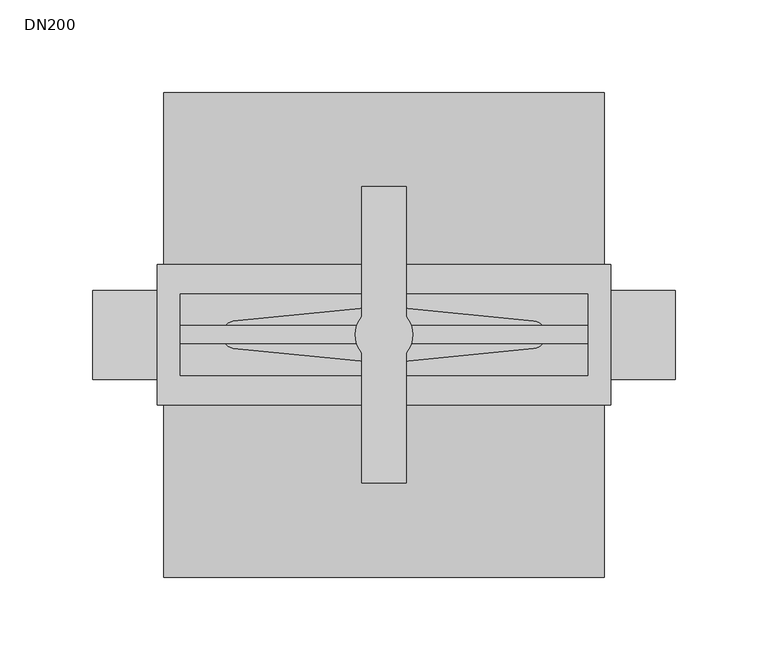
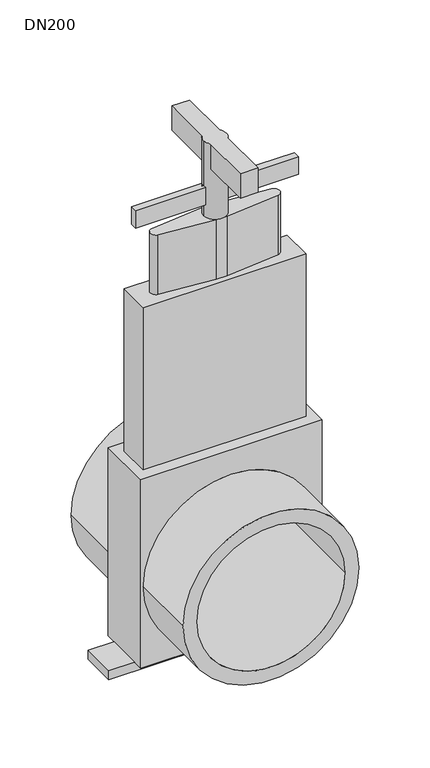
"""IFC4 building model written with IfcOpenShell, lengths in millimetres: valve geometry, PIA_PE_UN_valve gate_ACO : DN200."""

from ifc_helpers import new_model, si_unit, frame, origin, place, context, project, spatial, polyline, circle_curve, source, transform, mapped, element, save
from ifc_brep_helpers import plane_surface, cylinder_surface, revolved_surface, advanced_brep


def dn200_f11250b8(model_context):
    return source(origin(), model_context, "Body", "AdvancedBrep", [
        advanced_brep(
        [(12.0, 80.0, 706.0), (-12.0, 80.0, 706.0), (-12.0, 9.8389983, 706.0), (-15.5179215, 0.0, 706.0), (-12.0, -9.8389983, 706.0), (-12.0, -80.0, 706.0), (12.0, -80.0, 706.0), (12.0, -9.8389983, 706.0), (15.5179215, 0.0, 706.0), (12.0, 9.8389983, 706.0), (15.5179215, 0.0, 599.0), (-15.5179215, 0.0, 599.0), (-15.5179215, 0.0, 617.0), (-14.6903331, 5.0, 617.0), (-14.6903331, 5.0, 642.0), (-15.5179215, 0.0, 642.0), (-12.0, 9.8389983, 671.0), (12.0, 9.8389983, 671.0), (15.5179215, 0.0, 642.0), (14.6903331, 5.0, 642.0), (14.6903331, 5.0, 617.0), (15.5179215, 0.0, 617.0), (14.7547558, -4.8065653, 617.0), (14.7547558, -4.8065653, 642.0), (12.0, -9.8389983, 671.0), (-12.0, -9.8389983, 671.0), (-14.7547558, -4.8065653, 642.0), (-14.7547558, -4.8065653, 617.0), (12.0, -80.0, 671.0), (-12.0, -80.0, 671.0), (-12.0, 80.0, 671.0), (12.0, 80.0, 671.0), (110.0, 5.0, 617.0), (110.0, -4.8065653, 617.0), (-110.0, -4.8065653, 617.0), (-110.0, 5.0, 617.0), (-110.0, 5.0, 642.0), (-110.0, -4.8065653, 642.0), (110.0, -4.8065653, 642.0), (110.0, 5.0, 642.0)],
        [
            (0, 1),
            (1, 2),
            (2, 3, circle_curve(frame((0.0, 0.0, 706.0), z_axis=(0.0, 0.0, 1.0), x_axis=(-1.0, 0.0, 0.0)), 15.5179215)),
            (3, 4, circle_curve(frame((0.0, 0.0, 706.0), z_axis=(0.0, 0.0, 1.0), x_axis=(-1.0, 0.0, 0.0)), 15.5179215)),
            (4, 5),
            (5, 6),
            (6, 7),
            (7, 8, circle_curve(frame((0.0, 0.0, 706.0), z_axis=(0.0, 0.0, 1.0), x_axis=(-1.0, 0.0, 0.0)), 15.5179215)),
            (8, 9, circle_curve(frame((0.0, 0.0, 706.0), z_axis=(0.0, 0.0, 1.0), x_axis=(-1.0, 0.0, 0.0)), 15.5179215)),
            (9, 0),
            (10, 11, circle_curve(frame((0.0, 0.0, 599.0), z_axis=(0.0, 0.0, -1.0), x_axis=(-1.0, 0.0, 0.0)), 15.5179215)),
            (11, 10, circle_curve(frame((0.0, 0.0, 599.0), z_axis=(0.0, 0.0, -1.0), x_axis=(-1.0, 0.0, 0.0)), 15.5179215)),
            (11, 12),
            (12, 13, circle_curve(frame((0.0, 0.0, 617.0), z_axis=(0.0, 0.0, -1.0), x_axis=(-1.0, 0.0, 0.0)), 15.5179215)),
            (13, 14),
            (14, 15, circle_curve(frame((0.0, 0.0, 642.0), z_axis=(0.0, 0.0, 1.0), x_axis=(-1.0, 0.0, 0.0)), 15.5179215)),
            (15, 3),
            (2, 16),
            (16, 17, circle_curve(frame((0.0, 0.0, 671.0), z_axis=(0.0, 0.0, -1.0), x_axis=(-1.0, 0.0, 0.0)), 15.5179215)),
            (17, 9),
            (8, 18),
            (18, 19, circle_curve(frame((0.0, 0.0, 642.0), z_axis=(0.0, 0.0, 1.0), x_axis=(-1.0, 0.0, 0.0)), 15.5179215)),
            (19, 20),
            (20, 21, circle_curve(frame((0.0, 0.0, 617.0), z_axis=(0.0, 0.0, -1.0), x_axis=(-1.0, 0.0, 0.0)), 15.5179215)),
            (21, 10),
            (21, 22, circle_curve(frame((0.0, 0.0, 617.0), z_axis=(0.0, 0.0, -1.0), x_axis=(-1.0, 0.0, 0.0)), 15.5179215)),
            (22, 23),
            (23, 18, circle_curve(frame((0.0, 0.0, 642.0), z_axis=(0.0, 0.0, 1.0), x_axis=(-1.0, 0.0, 0.0)), 15.5179215)),
            (7, 24),
            (24, 25, circle_curve(frame((0.0, 0.0, 671.0), z_axis=(0.0, 0.0, -1.0), x_axis=(-1.0, 0.0, 0.0)), 15.5179215)),
            (25, 4),
            (15, 26, circle_curve(frame((0.0, 0.0, 642.0), z_axis=(0.0, 0.0, 1.0), x_axis=(-1.0, 0.0, 0.0)), 15.5179215)),
            (26, 27),
            (27, 12, circle_curve(frame((0.0, 0.0, 617.0), z_axis=(0.0, 0.0, -1.0), x_axis=(-1.0, 0.0, 0.0)), 15.5179215)),
            (28, 29),
            (29, 25),
            (24, 28),
            (30, 31),
            (31, 17),
            (16, 30),
            (0, 31),
            (30, 1),
            (29, 5),
            (28, 6),
            (32, 33),
            (33, 22),
            (20, 32),
            (34, 35),
            (35, 13),
            (27, 34),
            (36, 37),
            (37, 26),
            (14, 36),
            (38, 39),
            (39, 19),
            (23, 38),
            (39, 32),
            (35, 36),
            (34, 37),
            (33, 38),
        ],
        [
            plane_surface(frame((-15.5179215, 0.0, 706.0), z_axis=(0.0, 0.0, 1.0), x_axis=(0.0, -1.0, 0.0))),
            plane_surface(frame((-15.5179215, 0.0, 599.0), z_axis=(0.0, 0.0, -1.0), x_axis=(0.0, 1.0, 0.0))),
            cylinder_surface(frame((0.0, 0.0, 599.0), z_axis=(0.0, 0.0, 1.0), x_axis=(-1.0, 0.0, 0.0)), 15.5179215),
            plane_surface(frame((-16.1456927, 80.0, 671.0), z_axis=(0.0, 0.0, -1.0), x_axis=(1.0, 0.0, 0.0))),
            plane_surface(frame((12.0, 80.0, 706.0), z_axis=(0.0, 1.0, 0.0), x_axis=(0.0, 0.0, -1.0))),
            plane_surface(frame((-12.0, 80.0, 706.0), z_axis=(-1.0, 0.0, 0.0), x_axis=(0.0, 0.0, -1.0))),
            plane_surface(frame((-12.0, -80.0, 706.0), z_axis=(0.0, -1.0, 0.0), x_axis=(0.0, 0.0, -1.0))),
            plane_surface(frame((12.0, -80.0, 706.0), z_axis=(1.0, 0.0, 0.0), x_axis=(0.0, 0.0, -1.0))),
            plane_surface(frame((-110.0, 5.0, 617.0), z_axis=(0.0, 0.0, -1.0), x_axis=(1.0, 0.0, 0.0))),
            plane_surface(frame((-110.0, 5.0, 642.0), z_axis=(0.0, 0.0, 1.0), x_axis=(-1.0, 0.0, 0.0))),
            plane_surface(frame((110.0, 5.0, 642.0), z_axis=(0.0, 1.0, 0.0), x_axis=(0.0, 0.0, -1.0))),
            plane_surface(frame((-110.0, 5.0, 642.0), z_axis=(-1.0, 0.0, 0.0), x_axis=(0.0, 0.0, -1.0))),
            plane_surface(frame((-110.0, -4.8065653, 642.0), z_axis=(0.0, -1.0, 0.0), x_axis=(0.0, 0.0, -1.0))),
            plane_surface(frame((110.0, -4.8065653, 642.0), z_axis=(1.0, 0.0, 0.0), x_axis=(0.0, 0.0, -1.0))),
        ],
        [
            (0, [[1, 2, 3, 4, 5, 6, 7, 8, 9, 10]]),
            (1, [[11, 12]]),
            (2, [[-12, 13, 14, 15, 16, 17, -3, 18, 19, 20, -9, 21, 22, 23, 24, 25]]),
            (2, [[-11, -25, 26, 27, 28, -21, -8, 29, 30, 31, -4, -17, 32, 33, 34, -13]]),
            (3, [[35, 36, -30, 37]]),
            (3, [[38, 39, -19, 40]]),
            (4, [[-1, 41, -38, 42]]),
            (5, [[-42, -40, -18, -2]]),
            (5, [[43, -5, -31, -36]]),
            (6, [[-6, -43, -35, 44]]),
            (7, [[-41, -10, -20, -39]]),
            (7, [[-44, -37, -29, -7]]),
            (8, [[45, 46, -26, -24, 47]]),
            (8, [[48, 49, -14, -34, 50]]),
            (9, [[51, 52, -32, -16, 53]]),
            (9, [[54, 55, -22, -28, 56]]),
            (10, [[57, -47, -23, -55]]),
            (10, [[58, -53, -15, -49]]),
            (11, [[-48, 59, -51, -58]]),
            (12, [[-59, -50, -33, -52]]),
            (12, [[60, -56, -27, -46]]),
            (13, [[-45, -57, -54, -60]]),
        ],
    ),
        advanced_brep(
        [(-119.0, -131.0, 128.0), (119.0, -131.0, 128.0), (100.0, -131.0, 128.0), (-100.0, -131.0, 128.0), (-119.0, 131.0, 128.0), (119.0, 131.0, 128.0), (-100.0, 131.0, 128.0), (100.0, 131.0, 128.0), (-119.0, -38.0, 128.0), (-30.5941171, -38.0, 13.0), (-30.5941171, -24.0, 13.0), (30.5941171, -24.0, 13.0), (30.5941171, -38.0, 13.0), (119.0, -38.0, 128.0), (119.0, 38.0, 128.0), (30.5941171, 38.0, 13.0), (30.5941171, 24.0, 13.0), (-30.5941171, 24.0, 13.0), (-30.5941171, 38.0, 13.0), (-119.0, 38.0, 128.0), (-157.5, -24.0, 13.0), (-157.5, -24.0, 0.0), (157.5, -24.0, 0.0), (157.5, -24.0, 13.0), (122.5, -24.0, 13.0), (-122.5, -24.0, 13.0), (157.5, 24.0, 13.0), (157.5, 24.0, 0.0), (-157.5, 24.0, 0.0), (-157.5, 24.0, 13.0), (-122.5, 24.0, 13.0), (122.5, 24.0, 13.0), (122.5, -38.0, 282.0), (-122.5, -38.0, 282.0), (-122.5, -38.0, 13.0), (122.5, -38.0, 13.0), (122.5, 38.0, 282.0), (122.5, 38.0, 13.0), (-122.5, 38.0, 13.0), (-122.5, 38.0, 282.0), (-110.0, 22.0, 282.0), (110.0, 22.0, 282.0), (110.0, -22.0, 282.0), (-110.0, -22.0, 282.0), (110.0, 22.0, 514.0), (-110.0, 22.0, 514.0), (-110.0, -22.0, 514.0), (110.0, -22.0, 514.0), (-7.0266213, -14.7148027, 514.0), (-81.4686781, -7.3547933, 514.0), (-81.4753357, 7.3534607, 514.0), (-7.3959199, 14.7114773, 514.0), (7.3962517, 14.7148251, 514.0), (80.7379194, 7.46361, 514.0), (80.7412761, -7.4632774, 514.0), (7.7653336, -14.7114764, 514.0), (-81.4686781, -7.3547933, 599.0), (-7.0266213, -14.7148027, 599.0), (7.7653336, -14.7114764, 599.0), (80.7412761, -7.4632774, 599.0), (80.7379194, 7.46361, 599.0), (7.3962517, 14.7148251, 599.0), (-7.3959199, 14.7114773, 599.0), (-81.4753357, 7.3534607, 599.0)],
        [
            (0, 1, circle_curve(frame((0.0, -131.0, 128.0), z_axis=(0.0, -1.0, 0.0), x_axis=(1.0, 0.0, 0.0)), 119.0)),
            (1, 0, circle_curve(frame((0.0, -131.0, 128.0), z_axis=(0.0, -1.0, 0.0), x_axis=(1.0, 0.0, 0.0)), 119.0)),
            (2, 3, circle_curve(frame((0.0, -131.0, 128.0), z_axis=(0.0, 1.0, 0.0), x_axis=(1.0, 0.0, 0.0)), 100.0)),
            (3, 2, circle_curve(frame((0.0, -131.0, 128.0), z_axis=(0.0, 1.0, 0.0), x_axis=(1.0, 0.0, 0.0)), 100.0)),
            (4, 5, circle_curve(frame((0.0, 131.0, 128.0), z_axis=(0.0, 1.0, 0.0), x_axis=(1.0, 0.0, 0.0)), 119.0)),
            (5, 4, circle_curve(frame((0.0, 131.0, 128.0), z_axis=(0.0, 1.0, 0.0), x_axis=(1.0, 0.0, 0.0)), 119.0)),
            (6, 7, circle_curve(frame((0.0, 131.0, 128.0), z_axis=(0.0, -1.0, 0.0), x_axis=(1.0, 0.0, 0.0)), 100.0)),
            (7, 6, circle_curve(frame((0.0, 131.0, 128.0), z_axis=(0.0, -1.0, 0.0), x_axis=(1.0, 0.0, 0.0)), 100.0)),
            (0, 8),
            (8, 9, circle_curve(frame((0.0, -38.0, 128.0), z_axis=(0.0, -1.0, 0.0), x_axis=(1.0, 0.0, 0.0)), 119.0)),
            (9, 10),
            (10, 11, circle_curve(frame((0.0, -24.0, 128.0), z_axis=(0.0, -1.0, 0.0), x_axis=(1.0, 0.0, 0.0)), 119.0)),
            (11, 12),
            (12, 13, circle_curve(frame((0.0, -38.0, 128.0), z_axis=(0.0, -1.0, 0.0), x_axis=(1.0, 0.0, 0.0)), 119.0)),
            (13, 1),
            (5, 14),
            (14, 15, circle_curve(frame((0.0, 38.0, 128.0), z_axis=(0.0, 1.0, 0.0), x_axis=(1.0, 0.0, 0.0)), 119.0)),
            (15, 16),
            (16, 17, circle_curve(frame((0.0, 24.0, 128.0), z_axis=(0.0, 1.0, 0.0), x_axis=(1.0, 0.0, 0.0)), 119.0)),
            (17, 18),
            (18, 19, circle_curve(frame((0.0, 38.0, 128.0), z_axis=(0.0, 1.0, 0.0), x_axis=(1.0, 0.0, 0.0)), 119.0)),
            (19, 4),
            (13, 8, circle_curve(frame((0.0, -38.0, 128.0), z_axis=(0.0, -1.0, 0.0), x_axis=(1.0, 0.0, 0.0)), 119.0)),
            (19, 14, circle_curve(frame((0.0, 38.0, 128.0), z_axis=(0.0, 1.0, 0.0), x_axis=(1.0, 0.0, 0.0)), 119.0)),
            (6, 3),
            (2, 7),
            (20, 21),
            (21, 22),
            (22, 23),
            (23, 24),
            (24, 11),
            (10, 25),
            (25, 20),
            (26, 27),
            (27, 28),
            (28, 29),
            (29, 30),
            (30, 17),
            (16, 31),
            (31, 26),
            (23, 26),
            (31, 24),
            (29, 20),
            (25, 30),
            (28, 21),
            (27, 22),
            (32, 33),
            (33, 34),
            (34, 9),
            (12, 35),
            (35, 32),
            (36, 37),
            (37, 15),
            (18, 38),
            (38, 39),
            (39, 36),
            (32, 36),
            (39, 33),
            (40, 41),
            (41, 42),
            (42, 43),
            (43, 40),
            (38, 30),
            (25, 34),
            (24, 35),
            (37, 31),
            (44, 45),
            (45, 46),
            (46, 47),
            (47, 44),
            (48, 49),
            (49, 50, circle_curve(frame((-80.0, 0.0, 514.0), z_axis=(0.0, 0.0, -1.0), x_axis=(-1.0, 0.0, 0.0)), 7.5)),
            (50, 51),
            (51, 52, circle_curve(frame((0.0170574, -59.9212754, 514.0), z_axis=(0.0, 0.0, -1.0), x_axis=(-1.0, 0.0, 0.0)), 75.0)),
            (52, 53),
            (53, 54, circle_curve(frame((80.0, 0.0, 514.0), z_axis=(0.0, 0.0, -1.0), x_axis=(-1.0, 0.0, 0.0)), 7.5)),
            (54, 55),
            (55, 48, circle_curve(frame((0.3525729, 59.9212978, 514.0), z_axis=(0.0, 0.0, -1.0), x_axis=(-1.0, 0.0, 0.0)), 75.0)),
            (56, 57),
            (57, 58, circle_curve(frame((0.3525729, 59.9212978, 599.0), z_axis=(0.0, 0.0, 1.0), x_axis=(-1.0, 0.0, 0.0)), 75.0)),
            (58, 59),
            (59, 60, circle_curve(frame((80.0, 0.0, 599.0), z_axis=(0.0, 0.0, 1.0), x_axis=(-1.0, 0.0, 0.0)), 7.5)),
            (60, 61),
            (61, 62, circle_curve(frame((0.0170574, -59.9212754, 599.0), z_axis=(0.0, 0.0, 1.0), x_axis=(-1.0, 0.0, 0.0)), 75.0)),
            (62, 63),
            (63, 56, circle_curve(frame((-80.0, 0.0, 599.0), z_axis=(0.0, 0.0, 1.0), x_axis=(-1.0, 0.0, 0.0)), 7.5)),
            (56, 49),
            (48, 57),
            (55, 58),
            (54, 59),
            (53, 60),
            (52, 61),
            (51, 62),
            (50, 63),
            (44, 41),
            (40, 45),
            (43, 46),
            (42, 47),
        ],
        [
            plane_surface(frame((119.0, -131.0, 128.0), z_axis=(0.0, -1.0, 0.0), x_axis=(0.0, 0.0, 1.0))),
            plane_surface(frame((119.0, 131.0, 128.0), z_axis=(0.0, 1.0, 0.0), x_axis=(0.0, 0.0, -1.0))),
            cylinder_surface(frame((0.0, 131.0, 128.0), z_axis=(0.0, -1.0, 0.0), x_axis=(1.0, 0.0, 0.0)), 119.0),
            revolved_surface(polyline([(100.0, -131.0, 128.0), (100.0, 131.0, 128.0)]), (0.0, 318.1452223, 128.0), (0.0, -1.0, 0.0)),
            plane_surface(frame((-157.5, -24.0, 13.0), z_axis=(0.0, -1.0, 0.0), x_axis=(-1.0, 0.0, 0.0))),
            plane_surface(frame((-157.5, 24.0, 13.0), z_axis=(0.0, 1.0, 0.0), x_axis=(1.0, 0.0, 0.0))),
            plane_surface(frame((157.5, -24.0, 13.0), z_axis=(0.0, 0.0, 1.0), x_axis=(0.0, 1.0, 0.0))),
            plane_surface(frame((-157.5, -24.0, 13.0), z_axis=(-1.0, 0.0, 0.0), x_axis=(0.0, 1.0, 0.0))),
            plane_surface(frame((-157.5, -24.0, 0.0), z_axis=(0.0, 0.0, -1.0), x_axis=(0.0, 1.0, 0.0))),
            plane_surface(frame((157.5, -24.0, 0.0), z_axis=(1.0, 0.0, 0.0), x_axis=(0.0, 1.0, 0.0))),
            plane_surface(frame((-122.5, -38.0, 282.0), z_axis=(0.0, -1.0, 0.0), x_axis=(-1.0, 0.0, 0.0))),
            plane_surface(frame((-122.5, 38.0, 282.0), z_axis=(0.0, 1.0, 0.0), x_axis=(1.0, 0.0, 0.0))),
            plane_surface(frame((122.5, -38.0, 282.0), z_axis=(0.0, 0.0, 1.0), x_axis=(0.0, 1.0, 0.0))),
            plane_surface(frame((-122.5, -38.0, 282.0), z_axis=(-1.0, 0.0, 0.0), x_axis=(0.0, 1.0, 0.0))),
            plane_surface(frame((-122.5, -38.0, 13.0), z_axis=(0.0, 0.0, -1.0), x_axis=(0.0, 1.0, 0.0))),
            plane_surface(frame((122.5, -38.0, 13.0), z_axis=(1.0, 0.0, 0.0), x_axis=(0.0, 1.0, 0.0))),
            plane_surface(frame((-110.0, 22.0, 514.0), z_axis=(0.0, 0.0, 1.0), x_axis=(-1.0, 0.0, 0.0))),
            plane_surface(frame((-80.0, -7.5, 599.0), z_axis=(0.0, 0.0, 1.0), x_axis=(0.9951480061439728, -0.09838925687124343, 0.0))),
            plane_surface(frame((-81.4686781, -7.3547933, 599.0), z_axis=(-0.09838925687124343, -0.9951480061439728, 0.0), x_axis=(0.0, 0.0, -1.0))),
            cylinder_surface(frame((0.3525729, 59.9212978, 514.0), z_axis=(0.0, 0.0, 1.0), x_axis=(-1.0, 0.0, 0.0)), 75.0),
            plane_surface(frame((7.7653336, -14.7114764, 599.0), z_axis=(0.09883680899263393, -0.9951036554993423, 0.0), x_axis=(0.0, 0.0, -1.0))),
            cylinder_surface(frame((80.0, 0.0, 514.0), z_axis=(0.0, 0.0, 1.0), x_axis=(-1.0, 0.0, 0.0)), 7.5),
            plane_surface(frame((80.7379194, 7.46361, 599.0), z_axis=(0.09838925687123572, 0.9951480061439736, 0.0), x_axis=(0.0, 0.0, -1.0))),
            cylinder_surface(frame((0.0170574, -59.9212754, 514.0), z_axis=(0.0, 0.0, 1.0), x_axis=(-1.0, 0.0, 0.0)), 75.0),
            plane_surface(frame((-7.3959199, 14.7114773, 599.0), z_axis=(-0.09883969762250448, 0.9951033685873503, 0.0), x_axis=(0.0, 0.0, -1.0))),
            cylinder_surface(frame((-80.0, 0.0, 514.0), z_axis=(0.0, 0.0, 1.0), x_axis=(-1.0, 0.0, 0.0)), 7.5),
            plane_surface(frame((110.0, 22.0, 514.0), z_axis=(0.0, 1.0, 0.0), x_axis=(0.0, 0.0, -1.0))),
            plane_surface(frame((-110.0, 22.0, 514.0), z_axis=(-1.0, 0.0, 0.0), x_axis=(0.0, 0.0, -1.0))),
            plane_surface(frame((-110.0, -22.0, 514.0), z_axis=(0.0, -1.0, 0.0), x_axis=(0.0, 0.0, -1.0))),
            plane_surface(frame((110.0, -22.0, 514.0), z_axis=(1.0, 0.0, 0.0), x_axis=(0.0, 0.0, -1.0))),
        ],
        [
            (0, [[1, 2], [3, 4]]),
            (1, [[5, 6], [7, 8]]),
            (2, [[-1, 9, 10, 11, 12, 13, 14, 15]]),
            (2, [[-6, 16, 17, 18, 19, 20, 21, 22]]),
            (2, [[-2, -15, 23, -9]]),
            (2, [[-5, -22, 24, -16]]),
            (3, [[25, -3, 26, -7]]),
            (3, [[-25, -8, -26, -4]]),
            (4, [[27, 28, 29, 30, 31, -12, 32, 33]]),
            (5, [[34, 35, 36, 37, 38, -19, 39, 40]]),
            (6, [[41, -40, 42, -30]]),
            (6, [[43, -33, 44, -37]]),
            (7, [[-27, -43, -36, 45]]),
            (8, [[-28, -45, -35, 46]]),
            (9, [[-29, -46, -34, -41]]),
            (10, [[47, 48, 49, -10, -23, -14, 50, 51]]),
            (11, [[52, 53, -17, -24, -21, 54, 55, 56]]),
            (12, [[-47, 57, -56, 58], [59, 60, 61, 62]]),
            (13, [[-48, -58, -55, 63, -44, 64]]),
            (14, [[-49, -64, -32, -11]]),
            (14, [[-50, -13, -31, 65]]),
            (14, [[-53, 66, -39, -18]]),
            (14, [[-54, -20, -38, -63]]),
            (15, [[-51, -65, -42, -66, -52, -57]]),
            (16, [[67, 68, 69, 70], [71, 72, 73, 74, 75, 76, 77, 78]]),
            (17, [[79, 80, 81, 82, 83, 84, 85, 86]]),
            (18, [[-79, 87, -71, 88]]),
            (19, [[-80, -88, -78, 89]]),
            (20, [[-81, -89, -77, 90]]),
            (21, [[-82, -90, -76, 91]]),
            (22, [[-83, -91, -75, 92]]),
            (23, [[-84, -92, -74, 93]]),
            (24, [[-85, -93, -73, 94]]),
            (25, [[-86, -94, -72, -87]]),
            (26, [[-67, 95, -59, 96]]),
            (27, [[-68, -96, -62, 97]]),
            (28, [[-69, -97, -61, 98]]),
            (29, [[-70, -98, -60, -95]]),
        ],
    ),
    ])


if __name__ == "__main__":
    model = new_model("IFC4")
    model_context = context("Model", 3, world=origin())
    ifc_project = project(units=[si_unit("LENGTHUNIT", "METRE", prefix="MILLI")], contexts=[model_context])
    site = spatial("IfcSite", under=ifc_project)
    building = spatial("IfcBuilding", under=site)
    placement = place(None, origin())
    dn200_shape = dn200_f11250b8(model_context)
    element("IfcValve", 1, ObjectType="PIA_PE_UN_valve gate_ACO : DN200", at=placement, inside=building, context=model_context, shape_type="MappedRepresentation", body=[
        mapped(dn200_shape, transform((0.0, 0.0, 0.0), x_axis=(1.0, 0.0, 0.0), y_axis=(0.0, 1.0, 0.0), z_axis=(0.0, 0.0, 1.0))),
    ])
    save(model, "model.ifc")
